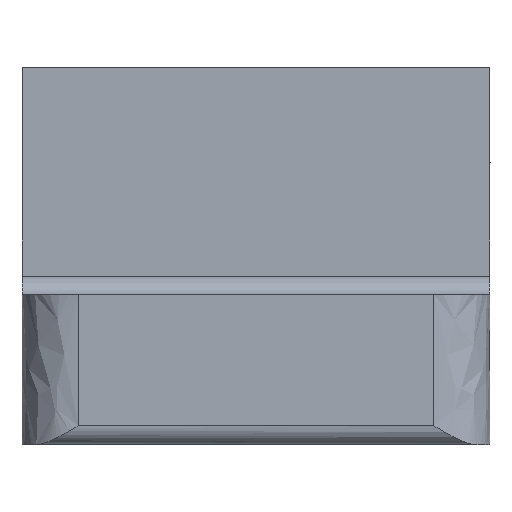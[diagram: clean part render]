
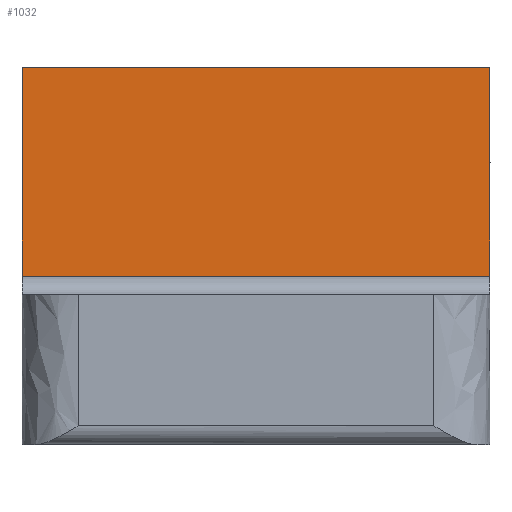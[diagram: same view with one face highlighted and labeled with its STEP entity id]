
A CAD part, left-side view. The second image highlights one B-rep face of the part: STEP entity #1032.
In plain terms, the highlighted planar face has unit normal (-1, 0, 0).
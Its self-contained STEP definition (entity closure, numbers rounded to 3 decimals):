
#22 = VERTEX_POINT ( 'NONE', #618 ) ;
#31 = DIRECTION ( 'NONE',  ( 0., 1., 0. ) ) ;
#34 = CARTESIAN_POINT ( 'NONE',  ( -4.75, 12.5, 0. ) ) ;
#44 = LINE ( 'NONE', #1260, #426 ) ;
#45 = AXIS2_PLACEMENT_3D ( 'NONE', #1281, #605, #793 ) ;
#105 = CARTESIAN_POINT ( 'NONE',  ( -4.75, -12.5, 0. ) ) ;
#115 = VERTEX_POINT ( 'NONE', #34 ) ;
#268 = EDGE_CURVE ( 'NONE', #115, #529, #665, .T. ) ;
#283 = CARTESIAN_POINT ( 'NONE',  ( -4.75, 12.5, 0. ) ) ;
#368 = DIRECTION ( 'NONE',  ( 0., 1., 0. ) ) ;
#391 = ORIENTED_EDGE ( 'NONE', *, *, #932, .F. ) ;
#426 = VECTOR ( 'NONE', #969, 1000. ) ;
#428 = VERTEX_POINT ( 'NONE', #105 ) ;
#471 = CARTESIAN_POINT ( 'NONE',  ( -4.75, -12.5, 0. ) ) ;
#482 = DIRECTION ( 'NONE',  ( 0., 0., -1. ) ) ;
#510 = CARTESIAN_POINT ( 'NONE',  ( -4.75, 12.5, -11.15 ) ) ;
#523 = CARTESIAN_POINT ( 'NONE',  ( -4.75, -12.5, -11.15 ) ) ;
#529 = VERTEX_POINT ( 'NONE', #510 ) ;
#582 = EDGE_CURVE ( 'NONE', #22, #529, #726, .T. ) ;
#605 = DIRECTION ( 'NONE',  ( 1., 0., 0. ) ) ;
#615 = VECTOR ( 'NONE', #368, 1000. ) ;
#618 = CARTESIAN_POINT ( 'NONE',  ( -4.75, -12.5, -11.15 ) ) ;
#665 = LINE ( 'NONE', #283, #778 ) ;
#726 = LINE ( 'NONE', #523, #1045 ) ;
#751 = ORIENTED_EDGE ( 'NONE', *, *, #268, .T. ) ;
#778 = VECTOR ( 'NONE', #482, 1000. ) ;
#793 = DIRECTION ( 'NONE',  ( 0., 0., -1. ) ) ;
#841 = EDGE_CURVE ( 'NONE', #428, #115, #860, .T. ) ;
#860 = LINE ( 'NONE', #471, #615 ) ;
#865 = ORIENTED_EDGE ( 'NONE', *, *, #841, .T. ) ;
#893 = FACE_OUTER_BOUND ( 'NONE', #1265, .T. ) ;
#932 = EDGE_CURVE ( 'NONE', #428, #22, #44, .T. ) ;
#969 = DIRECTION ( 'NONE',  ( 0., 0., -1. ) ) ;
#1032 = ADVANCED_FACE ( 'NONE', ( #893 ), #1298, .F. ) ;
#1045 = VECTOR ( 'NONE', #31, 1000. ) ;
#1091 = ORIENTED_EDGE ( 'NONE', *, *, #582, .F. ) ;
#1260 = CARTESIAN_POINT ( 'NONE',  ( -4.75, -12.5, 0. ) ) ;
#1265 = EDGE_LOOP ( 'NONE', ( #751, #1091, #391, #865 ) ) ;
#1281 = CARTESIAN_POINT ( 'NONE',  ( -4.75, -12.5, 0. ) ) ;
#1298 = PLANE ( 'NONE',  #45 ) ;
